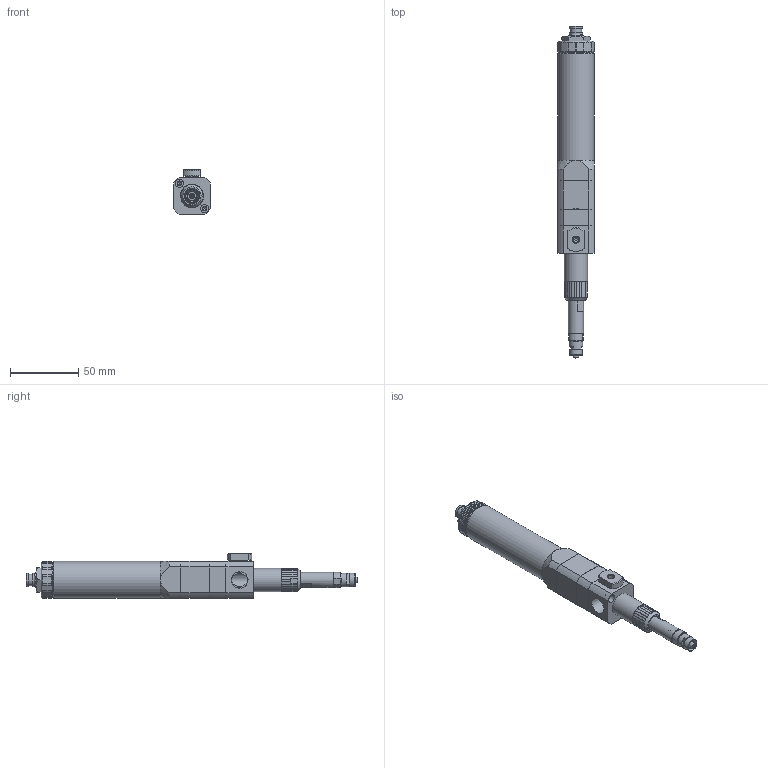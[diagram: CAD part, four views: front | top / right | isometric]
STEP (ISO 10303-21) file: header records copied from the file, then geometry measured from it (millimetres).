
FILE_DESCRIPTION (( 'STEP AP214' ), '1' );
FILE_NAME ('PCP-050-SY.STEP', '2024-10-11T10:31:57', ( '' ), ( '' ), 'SwSTEP 2.0', 'SolidWorks 2024', '' );
FILE_SCHEMA (( 'AUTOMOTIVE_DESIGN' ));
Length unit declared in the file: millimetre
Products named in the file (1): PCP-050-SY
Bounding box: 27 x 242.4 x 32.8 mm (x, y, z)
Volume: 50873.4 mm3; surface area: 50176.5 mm2
Topology: 25 solids, 25 shells, 714 faces, 1846 edges, 1204 vertices
Faces by surface type: plane 256, cylinder 241, cone 200, bspline 17
Full cylindrical faces by diameter (mm): 0.4 x1, 1 x5, 2 x1, 2.5 x7, 2.7 x3, 3 x2, 3.5 x10, 3.9 x1, 4 x1, 4.2 x1, 4.8 x1, 5.2 x1, 5.8 x4, 6 x5, 6.6 x2, 6.8 x1, 7 x1, 7.2 x1, 8 x4, 8.1 x1, 8.2 x1, 8.5 x2, 9 x7, 9.5 x2, 9.6 x2, 9.7 x1, 10 x1, 10.1 x1, 10.5 x1, 10.8 x2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
Entity records: 25170 total; most frequent: CARTESIAN_POINT 9919, DIRECTION 3083, ORIENTED_EDGE 2738, EDGE_CURVE 1369, AXIS2_PLACEMENT_3D 1317, EDGE_LOOP 1096, VERTEX_POINT 1035, FACE_OUTER_BOUND 841
